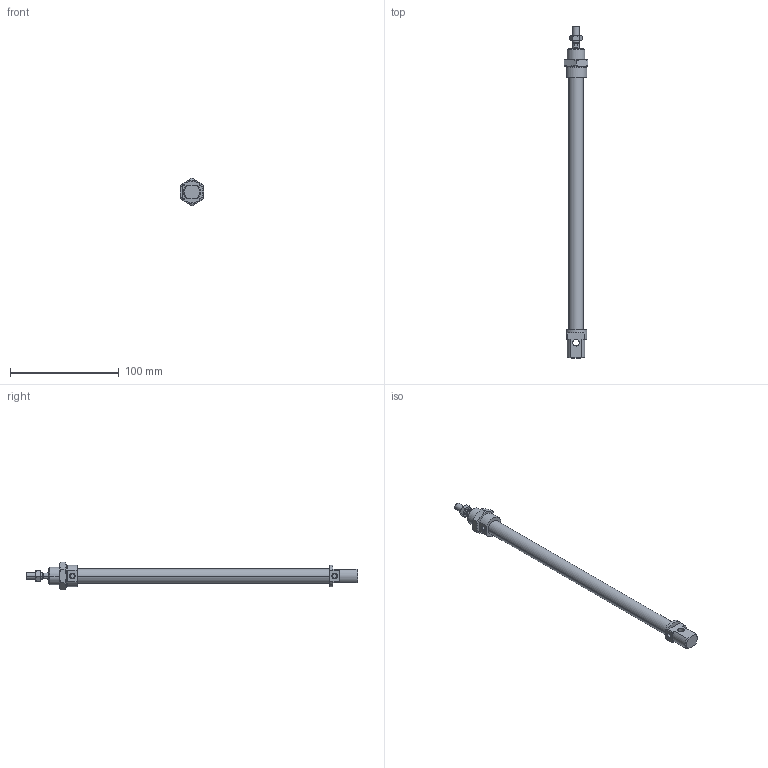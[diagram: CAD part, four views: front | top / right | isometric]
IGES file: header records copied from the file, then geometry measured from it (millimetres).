
Global section: file name: No Iges File Name specified; native system: Autodesk Inventor 2010; preprocessor: AutoDesk Inventor Iges Exporter R2010; author: rivolro1; date: 20090604.093157; units: millimetre
Bounding box: 22 x 305 x 25.4 mm (x, y, z)
Volume: 44800.9 mm3; surface area: 24038.9 mm2
Topology: 4 solids, 4 shells, 107 faces, 236 edges, 144 vertices
Faces by surface type: plane 39, cone 28, bspline 20, cylinder 14, revolution 6
